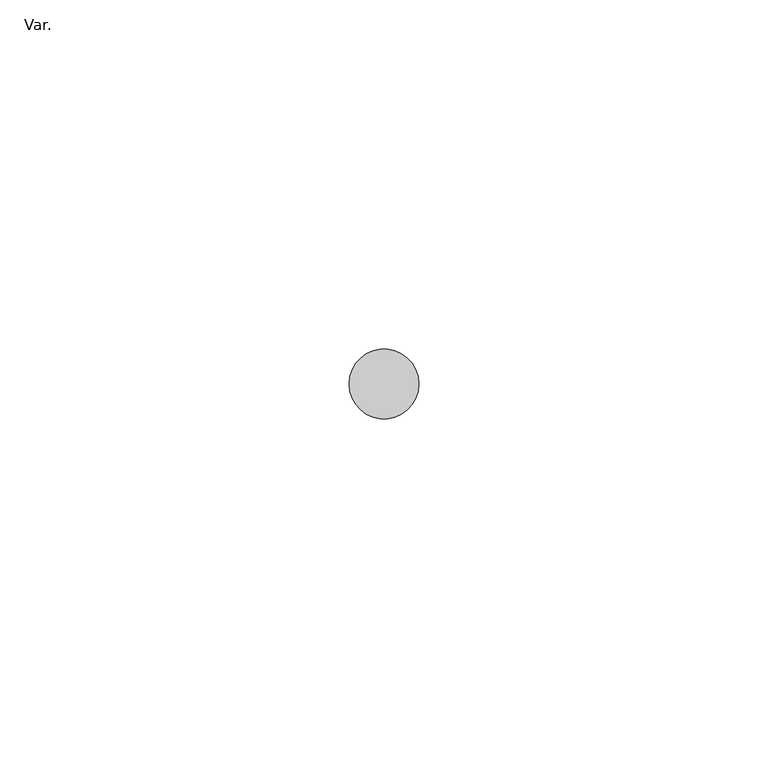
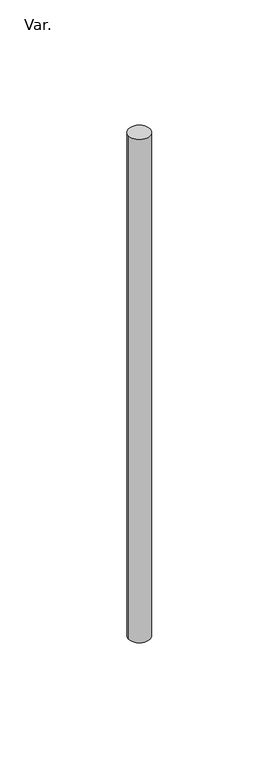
"""IFC4 building model written with IfcOpenShell, lengths in millimetres: pipe fitting geometry, AmancoWavin_ConexõesdeTubos_EsfotoSilentiumNãoUsarBarrasemBase : Var.."""

from ifc_helpers import new_model, si_unit, point, origin, origin_with_axes, origin_2d, place, context, project, spatial, circle_curve, trimmed, segment, composite_curve, outline, extrude, source, transform, mapped, element, save


def var_ea95b4ab(model_context):
    return source(origin(), model_context, "Body", "SweptSolid", [
        extrude(outline(composite_curve([segment(trimmed(circle_curve(origin_2d(), 5.0), [point((-5.0, 0.0))], [point((5.0, 0.0))], False, "CARTESIAN"), True, "CONTINUOUS"), segment(trimmed(circle_curve(origin_2d(), 5.0), [point((5.0, 0.0))], [point((-5.0, 0.0))], False, "CARTESIAN"), True, "CONTINUOUS")], self_intersect=False)), origin_with_axes(), (0.0, 0.0, 1.0), 250.26),
    ])


if __name__ == "__main__":
    model = new_model("IFC4")
    model_context = context("Model", 3, world=origin())
    ifc_project = project(units=[si_unit("LENGTHUNIT", "METRE", prefix="MILLI")], contexts=[model_context])
    site = spatial("IfcSite", under=ifc_project)
    building = spatial("IfcBuilding", under=site)
    placement = place(None, origin())
    var_shape = var_ea95b4ab(model_context)
    element("IfcPipeFitting", 1, ObjectType="AmancoWavin_ConexõesdeTubos_EsfotoSilentiumNãoUsarBarrasemBase : Var.", at=placement, inside=building, context=model_context, shape_type="MappedRepresentation", body=[
        mapped(var_shape, transform((0.0, 0.0, 0.0), x_axis=(1.0, 0.0, 0.0), y_axis=(0.0, 1.0, 0.0), z_axis=(0.0, 0.0, 1.0))),
    ])
    save(model, "model.ifc")
